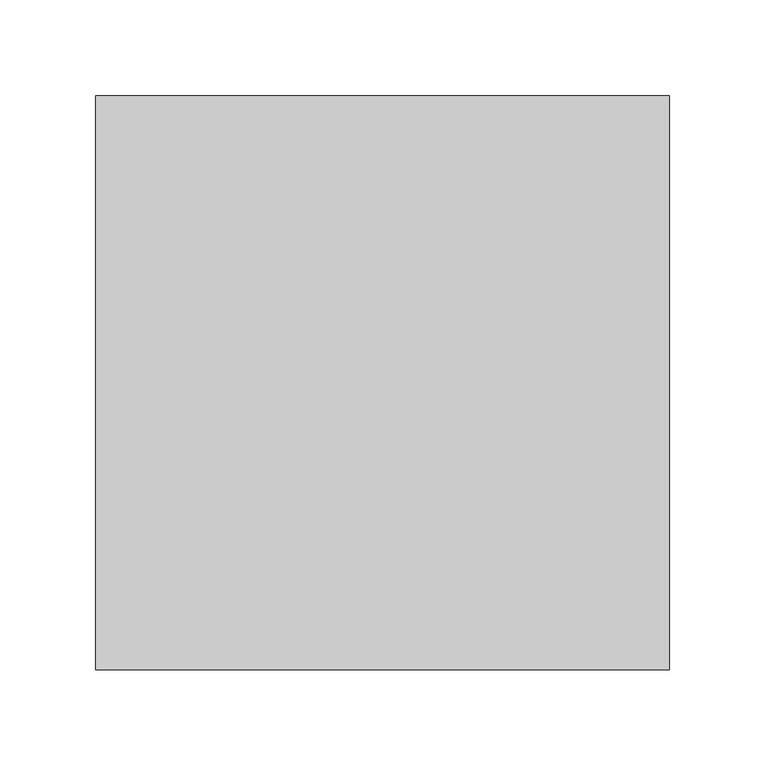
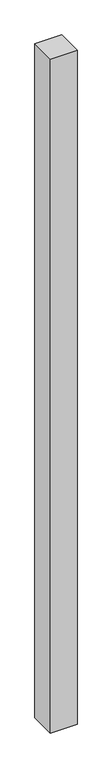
"""IFC4 building model written with IfcOpenShell, lengths in millimetres: column geometry, Бетон-Квадратного сечения-Колонна : 300 x 300 мм."""

import ifcopenshell
import ifcopenshell.guid

model = None  # the IFC model being written
_history = None  # IfcOwnerHistory: only IFC2X3 demands one
_inside = {}  # id of a spatial element -> (the spatial element, [elements in it])
_under = {}  # id of a project, library or spatial element -> (it, [spatial elements below it])
_declared = {}  # id of a project -> (the project, [libraries it declares])
_typed = {}  # id of a type object -> (the type object, [elements of that type])
_made_of = {}  # id of a material, layer set ... -> (it, [elements and type objects made of it])


def new_model(schema):
    """Start an empty IFC model of exactly this schema.

    Asked for "IFC4X3", IfcOpenShell would pick the latest addendum, in which some entities
    have other attributes; the version numbers below select the first issue.
    IFC2X3 requires an IfcOwnerHistory on every rooted entity: one is made here for all.
    """
    global model, _history
    if schema == "IFC4X3":
        model = ifcopenshell.file(schema_version=(4, 3, 0, 0))
    else:
        model = ifcopenshell.file(schema=schema)
    _inside.clear()
    _under.clear()
    _declared.clear()
    _typed.clear()
    _made_of.clear()
    _history = None
    if model.schema == "IFC2X3":
        org = make("IfcOrganization", Name="unknown")
        user = make(
            "IfcPersonAndOrganization",
            ThePerson=make("IfcPerson", FamilyName="unknown"),
            TheOrganization=org,
        )
        app = make(
            "IfcApplication",
            ApplicationDeveloper=org,
            Version="unknown",
            ApplicationFullName="unknown",
            ApplicationIdentifier="unknown",
        )
        _history = make(
            "IfcOwnerHistory",
            OwningUser=user,
            OwningApplication=app,
            ChangeAction="ADDED",
            CreationDate=0,
        )
    return model


def make(cls, **values):
    """One entity of the class cls with the attributes given. An attribute that is None is left unset."""
    return model.create_entity(
        cls, **{name: value for name, value in values.items() if value is not None}
    )


def rooted(cls, **values):
    """An entity with a GlobalId (a new one), such as an element, a storey or a relation."""
    return make(cls, GlobalId=ifcopenshell.guid.new(), OwnerHistory=_history, **values)


def si_unit(unit_type, name, prefix=None):
    """IfcSIUnit, for example si_unit("LENGTHUNIT", "METRE", prefix="MILLI")."""
    return make("IfcSIUnit", UnitType=unit_type, Prefix=prefix, Name=name)


def assignment(units):
    """IfcUnitAssignment: the units of a project."""
    return None if units is None else make("IfcUnitAssignment", Units=units)


def point(xyz):
    """IfcCartesianPoint."""
    return None if xyz is None else make("IfcCartesianPoint", Coordinates=xyz)


def direction(xyz):
    """IfcDirection."""
    return None if xyz is None else make("IfcDirection", DirectionRatios=xyz)


def frame(location, z_axis=None, x_axis=None):
    """IfcAxis2Placement3D, a coordinate frame: its origin and axes. An axis left out is left unset."""
    return make(
        "IfcAxis2Placement3D",
        Location=point(location),
        Axis=direction(z_axis),
        RefDirection=direction(x_axis),
    )


def origin():
    """The frame at (0, 0, 0) with its axes left unset."""
    return frame((0.0, 0.0, 0.0))


def origin_with_axes():
    """The frame at (0, 0, 0) with the z axis (0, 0, 1) and the x axis (1, 0, 0) written out."""
    return frame((0.0, 0.0, 0.0), z_axis=(0.0, 0.0, 1.0), x_axis=(1.0, 0.0, 0.0))


def place(relative_to, where):
    """IfcLocalPlacement: puts the frame where relative to a parent placement (None: the world)."""
    return make(
        "IfcLocalPlacement", PlacementRelTo=relative_to, RelativePlacement=where
    )


def context(
    kind, dimensions, precision=None, world=None, true_north=None, identifier=None
):
    """IfcGeometricRepresentationContext, for example the 3D "Model" context."""
    return make(
        "IfcGeometricRepresentationContext",
        ContextIdentifier=identifier,
        ContextType=kind,
        CoordinateSpaceDimension=dimensions,
        Precision=precision,
        WorldCoordinateSystem=world,
        TrueNorth=true_north,
    )


def project(units=None, contexts=None):
    """IfcProject with its units and contexts."""
    return rooted(
        "IfcProject",
        Name="project",
        RepresentationContexts=contexts,
        UnitsInContext=assignment(units),
    )


def spatial(cls, under=None, at=None, **own):
    """A site, building, storey or space (cls), placed at a placement, below another one or the project."""
    s = rooted(cls, ObjectPlacement=at, **own)
    if under is not None:
        _under.setdefault(under.id(), (under, []))[1].append(s)
    return s


def polyline(points):
    """IfcPolyline through the points."""
    return make("IfcPolyline", Points=[point(p) for p in points])


def outline(outer, holes=None, kind="AREA"):
    """IfcArbitraryClosedProfileDef: a profile drawn as a closed curve; with holes, ...WithVoids."""
    if holes is None:
        return make("IfcArbitraryClosedProfileDef", ProfileType=kind, OuterCurve=outer)
    return make(
        "IfcArbitraryProfileDefWithVoids",
        ProfileType=kind,
        OuterCurve=outer,
        InnerCurves=holes,
    )


def extrude(swept, where, along, depth):
    """IfcExtrudedAreaSolid: the profile swept, set in the frame where, extruded along a direction by depth."""
    return make(
        "IfcExtrudedAreaSolid",
        SweptArea=swept,
        Position=where,
        ExtrudedDirection=direction(along),
        Depth=depth,
    )


def shape(context_of_items, identifier, shape_type, items):
    """IfcShapeRepresentation: the items that make up one representation, for example the "Body"."""
    return make(
        "IfcShapeRepresentation",
        ContextOfItems=context_of_items,
        RepresentationIdentifier=identifier,
        RepresentationType=shape_type,
        Items=items,
    )


def source(mapping_origin, context_of_items, identifier, shape_type, items):
    """IfcRepresentationMap: a shape defined once, which mapped items show again and again."""
    return make(
        "IfcRepresentationMap",
        MappingOrigin=mapping_origin,
        MappedRepresentation=shape(context_of_items, identifier, shape_type, items),
    )


def transform(
    local_origin,
    x_axis=None,
    y_axis=None,
    z_axis=None,
    scale=None,
    scale2=None,
    scale3=None,
    uniform=True,
):
    """IfcCartesianTransformationOperator3D, or its non-uniform kind. x_axis, y_axis, z_axis: its Axis1, 2, 3."""
    if uniform:
        return make(
            "IfcCartesianTransformationOperator3D",
            Axis1=direction(x_axis),
            Axis2=direction(y_axis),
            LocalOrigin=point(local_origin),
            Scale=scale,
            Axis3=direction(z_axis),
        )
    return make(
        "IfcCartesianTransformationOperator3DnonUniform",
        Axis1=direction(x_axis),
        Axis2=direction(y_axis),
        LocalOrigin=point(local_origin),
        Scale=scale,
        Axis3=direction(z_axis),
        Scale2=scale2,
        Scale3=scale3,
    )


def mapped(mapping_source, mapping_target):
    """IfcMappedItem: shows the shape of a source again, moved by a transform."""
    return make(
        "IfcMappedItem", MappingSource=mapping_source, MappingTarget=mapping_target
    )


def made_of(thing, what):
    """Note that an element or type object is made of a material, layer set ...; save() writes the relation."""
    if what is not None:
        _made_of.setdefault(what.id(), (what, []))[1].append(thing)
    return thing


def element(
    cls,
    number,
    at=None,
    inside=None,
    cuts=None,
    type_object=None,
    material=None,
    context=None,
    identifier="Body",
    shape_type=None,
    held_by="IfcProductDefinitionShape",
    body=None,
    shapes=None,
    **own,
):
    """One element of the class cls, such as IfcWall. Its Tag is "e" and its number.

    at: its placement. inside: the storey or other place that contains it. cuts: it is an
    opening in that element (IfcRelVoidsElement). A single representation is given by context,
    identifier, shape_type and body (its items); several are given by shapes. held_by: the class
    of the entity that holds the representations. save() writes the other relations.
    """
    e = rooted(cls, Tag="e%d" % number, ObjectPlacement=at, **own)
    if body is not None:
        shapes = [shape(context, identifier, shape_type, body)]
    if shapes is not None:
        e.Representation = make(held_by, Representations=shapes)
    if inside is not None:
        _inside.setdefault(inside.id(), (inside, []))[1].append(e)
    if cuts is not None:
        rooted(
            "IfcRelVoidsElement", RelatingBuildingElement=cuts, RelatedOpeningElement=e
        )
    if type_object is not None:
        _typed.setdefault(type_object.id(), (type_object, []))[1].append(e)
    return made_of(e, material)


def aggregate(whole, parts):
    """IfcRelAggregates: a whole, such as a stair, and the parts it consists of."""
    return rooted("IfcRelAggregates", RelatingObject=whole, RelatedObjects=parts)


def save(model, path):
    """Write the relations noted so far, then the file.

    IfcRelAggregates (storeys below a building ...), IfcRelContainedInSpatialStructure (elements
    in a storey), IfcRelDefinesByType, IfcRelAssociatesMaterial and IfcRelDeclares: one each for
    every whole, place, type object, material and project.
    """
    for whole, parts in _under.values():
        aggregate(whole, parts)
    for where, things in _inside.values():
        rooted(
            "IfcRelContainedInSpatialStructure",
            RelatedElements=things,
            RelatingStructure=where,
        )
    for kind, things in _typed.values():
        rooted("IfcRelDefinesByType", RelatedObjects=things, RelatingType=kind)
    for what, things in _made_of.values():
        rooted("IfcRelAssociatesMaterial", RelatedObjects=things, RelatingMaterial=what)
    for by, libraries in _declared.values():
        rooted("IfcRelDeclares", RelatingContext=by, RelatedDefinitions=libraries)
    model.write(path)


def column_cd9b504c(model_context):
    return source(origin(), model_context, "Body", "SweptSolid", [
        extrude(outline(polyline([(150.0, 150.0), (150.0, -150.0), (-150.0, -150.0), (-150.0, 150.0), (150.0, 150.0)])), origin_with_axes(), (0.0, 0.0, 1.0), 8000.0),
    ])


if __name__ == "__main__":
    model = new_model("IFC4")
    model_context = context("Model", 3, world=origin())
    ifc_project = project(units=[si_unit("LENGTHUNIT", "METRE", prefix="MILLI")], contexts=[model_context])
    site = spatial("IfcSite", under=ifc_project)
    building = spatial("IfcBuilding", under=site)
    placement = place(None, origin())
    column_shape = column_cd9b504c(model_context)
    element("IfcColumn", 1, ObjectType="Бетон-Квадратного сечения-Колонна : 300 x 300 мм", at=placement, inside=building, context=model_context, shape_type="MappedRepresentation", body=[
        mapped(column_shape, transform((0.0, 0.0, 0.0), x_axis=(1.0, 0.0, 0.0), y_axis=(0.0, 1.0, 0.0), z_axis=(0.0, 0.0, 1.0))),
    ])
    save(model, "model.ifc")
